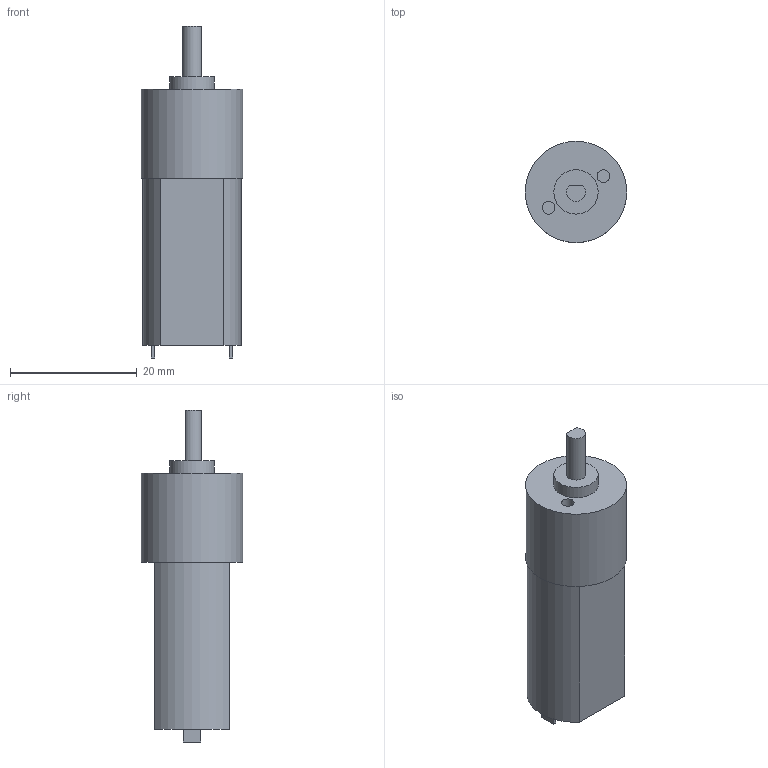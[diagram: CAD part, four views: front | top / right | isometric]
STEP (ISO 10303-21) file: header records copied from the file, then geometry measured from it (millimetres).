
FILE_DESCRIPTION(/* description */ (''),/* implementation_level */ '2;1');
FILE_NAME(/* name */ 'C:/Users/priba/Documents/Temp/Motor16mmL14.step',/* time_stamp */ '2020-04-08T11:32:31+02:00',/* author */ (''),/* organization */ (''),/* preprocessor_version */ 'ST-DEVELOPER v18',/* originating_system */ 'Autodesk Translation Framework v8.12.0.6',/* authorisation */ '');
FILE_SCHEMA (('AUTOMOTIVE_DESIGN { 1 0 10303 214 3 1 1 }'));
Length unit declared in the file: millimetre
Products named in the file (1): Motor16mmL14
Bounding box: 16 x 16 x 52.4 mm (x, y, z)
Volume: 7229.4 mm3; surface area: 2544.1 mm2
Topology: 1 solids, 1 shells, 27 faces, 58 edges, 40 vertices
Faces by surface type: plane 20, cylinder 7
Full cylindrical faces by diameter (mm): 2 x2, 7 x1, 16 x1
Entity records: 775 total; most frequent: DIRECTION 132, CARTESIAN_POINT 126, ORIENTED_EDGE 116, EDGE_CURVE 58, AXIS2_PLACEMENT_3D 46, LINE 40, VECTOR 40, VERTEX_POINT 40
